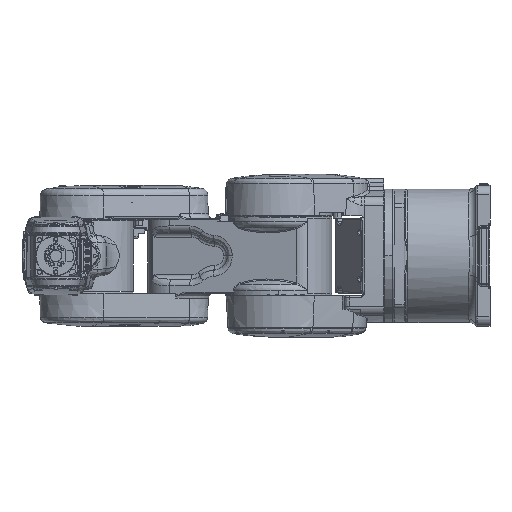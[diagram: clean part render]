
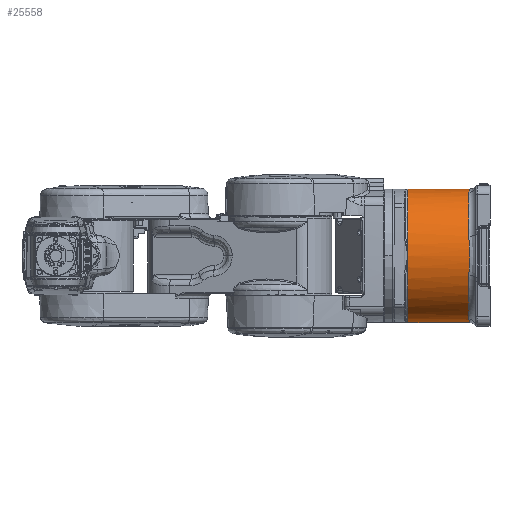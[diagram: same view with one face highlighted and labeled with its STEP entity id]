
A CAD part, left-side view. The second image highlights one B-rep face of the part: STEP entity #25558.
In plain terms, the highlighted cylindrical face has radius 142 mm (diameter 284 mm), a partial arc.
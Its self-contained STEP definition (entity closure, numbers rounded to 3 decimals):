
#284=CARTESIAN_POINT('',(91.565,45.,108.535));
#1004=CARTESIAN_POINT('',(91.565,45.,-108.535));
#1012=DIRECTION('',(0.,-1.,0.));
#1013=VECTOR('',#1012,130.);
#1014=CARTESIAN_POINT('',(91.565,175.,108.535));
#1015=LINE('',#1014,#1013);
#1016=CARTESIAN_POINT('',(0.,45.,0.));
#1017=DIRECTION('',(0.,-1.,0.));
#1018=DIRECTION('',(0.645,0.,0.764));
#1019=AXIS2_PLACEMENT_3D('',#1016,#1017,#1018);
#1021=CARTESIAN_POINT('',(41.928,45.,135.669));
#1022=CARTESIAN_POINT('',(40.215,45.,136.198));
#1023=CARTESIAN_POINT('',(36.775,44.932,137.19));
#1024=CARTESIAN_POINT('',(31.584,44.695,138.477));
#1025=CARTESIAN_POINT('',(26.366,44.383,139.565));
#1026=CARTESIAN_POINT('',(21.124,44.047,140.453));
#1027=CARTESIAN_POINT('',(15.863,43.73,141.144));
#1028=CARTESIAN_POINT('',(10.585,43.473,141.638));
#1029=CARTESIAN_POINT('',(5.296,43.305,141.934));
#1030=CARTESIAN_POINT('',(0.,43.247,142.033));
#1031=CARTESIAN_POINT('',(-5.296,43.305,141.934));
#1032=CARTESIAN_POINT('',(-10.585,43.473,141.638));
#1033=CARTESIAN_POINT('',(-15.863,43.73,141.144));
#1034=CARTESIAN_POINT('',(-21.124,44.047,140.453));
#1035=CARTESIAN_POINT('',(-26.366,44.383,139.565));
#1036=CARTESIAN_POINT('',(-31.584,44.695,138.477));
#1037=CARTESIAN_POINT('',(-36.775,44.932,137.19));
#1038=CARTESIAN_POINT('',(-40.215,45.,136.198));
#1039=CARTESIAN_POINT('',(-41.928,45.,135.669));
#1041=CARTESIAN_POINT('',(-135.669,45.,41.928));
#1042=CARTESIAN_POINT('',(-136.198,45.,40.215));
#1043=CARTESIAN_POINT('',(-137.19,44.932,36.775));
#1044=CARTESIAN_POINT('',(-138.477,44.695,31.584));
#1045=CARTESIAN_POINT('',(-139.565,44.383,26.366));
#1046=CARTESIAN_POINT('',(-140.453,44.047,21.124));
#1047=CARTESIAN_POINT('',(-141.144,43.73,15.863));
#1048=CARTESIAN_POINT('',(-141.638,43.473,10.585));
#1049=CARTESIAN_POINT('',(-141.934,43.305,5.296));
#1050=CARTESIAN_POINT('',(-142.,43.267,1.765));
#1051=CARTESIAN_POINT('',(-142.,43.267,0.));
#1053=CARTESIAN_POINT('',(-142.,43.267,0.));
#1054=CARTESIAN_POINT('',(-142.,43.267,
-1.765));
#1055=CARTESIAN_POINT('',(-141.934,43.305,
-5.296));
#1056=CARTESIAN_POINT('',(-141.638,43.473,
-10.585));
#1057=CARTESIAN_POINT('',(-141.144,43.73,
-15.863));
#1058=CARTESIAN_POINT('',(-140.453,44.047,
-21.124));
#1059=CARTESIAN_POINT('',(-139.565,44.383,
-26.366));
#1060=CARTESIAN_POINT('',(-138.477,44.695,
-31.584));
#1061=CARTESIAN_POINT('',(-137.19,44.932,
-36.775));
#1062=CARTESIAN_POINT('',(-136.198,45.,
-40.215));
#1063=CARTESIAN_POINT('',(-135.669,45.,
-41.928));
#1065=CARTESIAN_POINT('',(-41.928,45.,
-135.669));
#1066=CARTESIAN_POINT('',(-40.215,45.,
-136.198));
#1067=CARTESIAN_POINT('',(-36.775,44.932,
-137.19));
#1068=CARTESIAN_POINT('',(-31.584,44.695,
-138.477));
#1069=CARTESIAN_POINT('',(-26.366,44.383,
-139.565));
#1070=CARTESIAN_POINT('',(-21.124,44.047,
-140.453));
#1071=CARTESIAN_POINT('',(-15.863,43.73,
-141.144));
#1072=CARTESIAN_POINT('',(-10.585,43.473,
-141.638));
#1073=CARTESIAN_POINT('',(-5.296,43.305,
-141.934));
#1074=CARTESIAN_POINT('',(0.,43.247,
-142.033));
#1075=CARTESIAN_POINT('',(5.296,43.305,-141.934));
#1076=CARTESIAN_POINT('',(10.585,43.473,-141.638));
#1077=CARTESIAN_POINT('',(15.863,43.73,-141.144));
#1078=CARTESIAN_POINT('',(21.124,44.047,-140.453));
#1079=CARTESIAN_POINT('',(26.366,44.383,-139.565));
#1080=CARTESIAN_POINT('',(31.584,44.695,-138.477));
#1081=CARTESIAN_POINT('',(36.775,44.932,-137.19));
#1082=CARTESIAN_POINT('',(40.215,45.,-136.198));
#1083=CARTESIAN_POINT('',(41.928,45.,-135.669));
#1085=CARTESIAN_POINT('',(0.,45.,0.));
#1086=DIRECTION('',(0.,-1.,0.));
#1087=DIRECTION('',(0.295,0.,-0.955));
#1088=AXIS2_PLACEMENT_3D('',#1085,#1086,#1087);
#1700=CARTESIAN_POINT('',(0.,45.,0.));
#1701=DIRECTION('',(0.,1.,0.));
#1702=DIRECTION('',(-0.295,0.,-0.955));
#1703=AXIS2_PLACEMENT_3D('',#1700,#1701,#1702);
#1835=CARTESIAN_POINT('',(0.,45.,0.));
#1836=DIRECTION('',(0.,1.,0.));
#1837=DIRECTION('',(-0.955,0.,0.295));
#1838=AXIS2_PLACEMENT_3D('',#1835,#1836,#1837);
#3460=DIRECTION('',(0.,-1.,0.));
#3461=VECTOR('',#3460,130.);
#3462=CARTESIAN_POINT('',(91.565,175.,-108.535));
#3463=LINE('',#3462,#3461);
#4044=CARTESIAN_POINT('',(0.,175.,0.));
#4045=DIRECTION('',(0.,-1.,0.));
#4046=DIRECTION('',(-1.,0.,0.));
#4047=AXIS2_PLACEMENT_3D('',#4044,#4045,#4046);
#4161=CARTESIAN_POINT('',(0.,175.,0.));
#4162=DIRECTION('',(0.,-1.,0.));
#4163=DIRECTION('',(0.,0.,-1.));
#4164=AXIS2_PLACEMENT_3D('',#4161,#4162,#4163);
#4455=CARTESIAN_POINT('',(0.,175.,0.));
#4456=DIRECTION('',(0.,-1.,0.));
#4457=DIRECTION('',(0.,0.,1.));
#4458=AXIS2_PLACEMENT_3D('',#4455,#4456,#4457);
#4498=CARTESIAN_POINT('',(0.,175.,0.));
#4499=DIRECTION('',(0.,-1.,0.));
#4500=DIRECTION('',(0.645,0.,0.764));
#4501=AXIS2_PLACEMENT_3D('',#4498,#4499,#4500);
#21500=VERTEX_POINT('',#284);
#21501=CARTESIAN_POINT('',(91.565,175.,108.535));
#21502=VERTEX_POINT('',#21501);
#21507=CARTESIAN_POINT('',(41.928,45.,135.669));
#21508=VERTEX_POINT('',#21507);
#23502=VERTEX_POINT('',#1004);
#23503=CARTESIAN_POINT('',(41.928,45.,-135.669));
#23504=VERTEX_POINT('',#23503);
#23507=VERTEX_POINT('',#1039);
#23508=VERTEX_POINT('',#1041);
#23509=VERTEX_POINT('',#1051);
#23510=VERTEX_POINT('',#1063);
#23511=VERTEX_POINT('',#1065);
#23512=CARTESIAN_POINT('',(91.565,175.,
-108.535));
#23513=VERTEX_POINT('',#23512);
#23514=CARTESIAN_POINT('',(0.,175.,-142.));
#23515=VERTEX_POINT('',#23514);
#23516=CARTESIAN_POINT('',(-142.,175.,0.));
#23517=VERTEX_POINT('',#23516);
#23518=CARTESIAN_POINT('',(0.,175.,142.));
#23519=VERTEX_POINT('',#23518);
#25526=CARTESIAN_POINT('',(0.,40.631,0.));
#25527=DIRECTION('',(0.,1.,0.));
#25528=DIRECTION('',(-1.,0.,0.));
#25529=AXIS2_PLACEMENT_3D('',#25526,#25527,#25528);
#25530=CYLINDRICAL_SURFACE('',#25529,142.);
#25531=ORIENTED_EDGE('',*,*,#24485,.T.);
#25532=ORIENTED_EDGE('',*,*,#24601,.T.);
#25534=ORIENTED_EDGE('',*,*,#25533,.T.);
#25536=ORIENTED_EDGE('',*,*,#25535,.F.);
#25538=ORIENTED_EDGE('',*,*,#25537,.T.);
#25540=ORIENTED_EDGE('',*,*,#25539,.T.);
#25542=ORIENTED_EDGE('',*,*,#25541,.F.);
#25544=ORIENTED_EDGE('',*,*,#25543,.T.);
#25545=ORIENTED_EDGE('',*,*,#25515,.T.);
#25547=ORIENTED_EDGE('',*,*,#25546,.F.);
#25549=ORIENTED_EDGE('',*,*,#25548,.F.);
#25551=ORIENTED_EDGE('',*,*,#25550,.F.);
#25553=ORIENTED_EDGE('',*,*,#25552,.F.);
#25555=ORIENTED_EDGE('',*,*,#25554,.F.);
#25556=EDGE_LOOP('',(#25531,#25532,#25534,#25536,#25538,#25540,#25542,#25544,
#25545,#25547,#25549,#25551,#25553,#25555));
#25557=FACE_OUTER_BOUND('',#25556,.F.);
#25558=ADVANCED_FACE('',(#25557),#25530,.T.);
#1020=CIRCLE('',#1019,142.);
#1040=B_SPLINE_CURVE_WITH_KNOTS('',3,(#1021,#1022,#1023,#1024,#1025,#1026,#1027,
#1028,#1029,#1030,#1031,#1032,#1033,#1034,#1035,#1036,#1037,#1038,#1039),
.UNSPECIFIED.,.F.,.F.,(4,1,1,1,1,1,1,1,1,1,1,1,1,1,1,1,4),(0.,0.063,0.125,
0.188,0.25,0.313,0.375,0.438,0.5,0.563,0.625,0.688,
0.75,0.813,0.875,0.938,1.),.UNSPECIFIED.);
#1052=B_SPLINE_CURVE_WITH_KNOTS('',3,(#1041,#1042,#1043,#1044,#1045,#1046,#1047,
#1048,#1049,#1050,#1051),.UNSPECIFIED.,.F.,.F.,(4,1,1,1,1,1,1,1,4),(0.,
0.125,0.25,0.375,0.5,0.625,0.75,0.875,1.),.UNSPECIFIED.);
#1064=B_SPLINE_CURVE_WITH_KNOTS('',3,(#1053,#1054,#1055,#1056,#1057,#1058,#1059,
#1060,#1061,#1062,#1063),.UNSPECIFIED.,.F.,.F.,(4,1,1,1,1,1,1,1,4),(0.,
0.125,0.25,0.375,0.5,0.625,0.75,0.875,1.),.UNSPECIFIED.);
#1084=B_SPLINE_CURVE_WITH_KNOTS('',3,(#1065,#1066,#1067,#1068,#1069,#1070,#1071,
#1072,#1073,#1074,#1075,#1076,#1077,#1078,#1079,#1080,#1081,#1082,#1083),
.UNSPECIFIED.,.F.,.F.,(4,1,1,1,1,1,1,1,1,1,1,1,1,1,1,1,4),(0.,0.063,0.125,
0.188,0.25,0.313,0.375,0.438,0.5,0.563,0.625,0.688,
0.75,0.813,0.875,0.938,1.),.UNSPECIFIED.);
#1089=CIRCLE('',#1088,142.);
#1704=CIRCLE('',#1703,142.);
#1839=CIRCLE('',#1838,142.);
#4048=CIRCLE('',#4047,142.);
#4165=CIRCLE('',#4164,142.);
#4459=CIRCLE('',#4458,142.);
#4502=CIRCLE('',#4501,142.);
#24485=EDGE_CURVE('',#21502,#21500,#1015,.T.);
#24601=EDGE_CURVE('',#21500,#21508,#1020,.T.);
#25515=EDGE_CURVE('',#23504,#23502,#1089,.T.);
#25533=EDGE_CURVE('',#21508,#23507,#1040,.T.);
#25535=EDGE_CURVE('',#23508,#23507,#1839,.T.);
#25537=EDGE_CURVE('',#23508,#23509,#1052,.T.);
#25539=EDGE_CURVE('',#23509,#23510,#1064,.T.);
#25541=EDGE_CURVE('',#23511,#23510,#1704,.T.);
#25543=EDGE_CURVE('',#23511,#23504,#1084,.T.);
#25546=EDGE_CURVE('',#23513,#23502,#3463,.T.);
#25548=EDGE_CURVE('',#23515,#23513,#4165,.T.);
#25550=EDGE_CURVE('',#23517,#23515,#4048,.T.);
#25552=EDGE_CURVE('',#23519,#23517,#4459,.T.);
#25554=EDGE_CURVE('',#21502,#23519,#4502,.T.);
